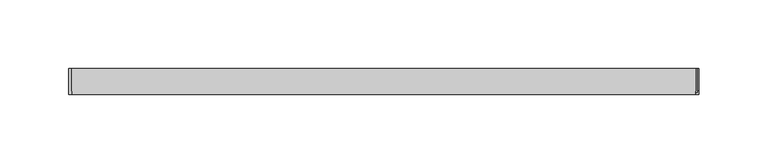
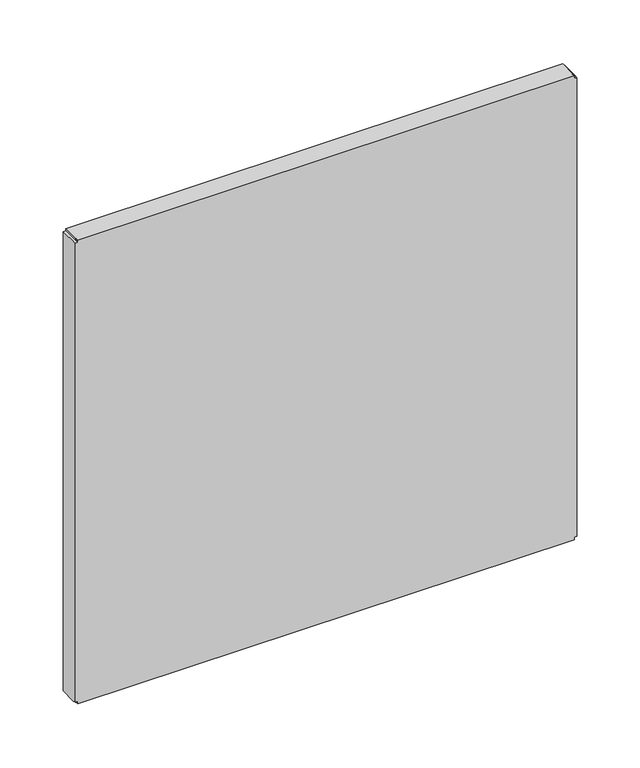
"""IFC4 building model written with IfcOpenShell, lengths in millimetres: proxy geometry, Platzhalter_Spuelkammer_Tuer_15.07.25."""

from ifc_helpers import new_model, si_unit, origin, place, context, project, spatial, faceted_brep, source, transform, mapped, element, save


def generic_models_fb11fd52(model_context):
    return source(origin(), model_context, "Body", "Brep", [
        faceted_brep([(226.75, 0.0, -221.8661165), (229.25, 0.0, -221.8661165), (229.25, 0.0, 221.5), (226.75, 0.0, 221.5), (226.75, 0.0, 224.0), (-226.75, 0.0, 224.0), (-226.75, 0.0, 221.8661165), (-229.25, 0.0, 221.8661165), (-229.25, 0.0, -221.5), (-226.75, 0.0, -221.5), (-226.75, 0.0, -224.0), (226.75, 0.0, -224.0), (226.75, 1.25, -221.8661165), (226.75, 2.5, -221.8661165), (227.1161165, 2.5, -221.8661165), (227.1161165, 18.75, -221.8661165), (229.25, 18.75, -221.8661165), (227.1161165, 2.5, -224.0), (227.1161165, 18.75, -224.0), (-226.75, 2.5, -224.0), (-227.1161165, 2.5, -224.0), (-227.1161165, 18.75, -224.0), (226.75, 2.5, -224.0), (226.75, 2.5, -222.75), (226.75, 1.25, -222.75), (-226.75, 1.25, -221.5), (-228.0, 1.25, -221.5), (-228.0, 2.5, -221.5), (-228.0, 18.75, -221.5), (-227.1161165, 18.75, -221.5), (-227.1161165, 2.5, -221.5), (-226.75, 2.5, -221.5), (-228.0, 18.75, -221.8661165), (-229.25, 18.75, -221.8661165), (-229.25, 18.75, 221.8661165), (-227.1161165, 18.75, 221.8661165), (-227.1161165, 18.75, 224.0), (227.1161165, 18.75, 224.0), (227.1161165, 18.75, 221.5), (228.0, 18.75, 221.5), (228.0, 18.75, 221.8661165), (229.25, 18.75, 221.8661165), (-226.75, 1.25, 221.8661165), (-226.75, 2.5, 221.8661165), (-227.1161165, 2.5, 221.8661165), (-226.75, 2.5, 224.0), (-226.75, 2.5, 222.75), (-226.75, 1.25, 222.75), (-229.25, 2.5, -221.8661165), (-229.25, 2.5, -221.5), (227.1161165, 2.5, 221.5), (226.75, 2.5, 221.5), (226.75, 1.25, 221.5), (228.0, 1.25, 221.5), (228.0, 2.5, 221.5), (227.1161165, 2.5, 224.0), (229.25, 2.5, 221.5), (226.75, 2.5, 222.75), (226.75, 1.25, 222.75), (226.75, 2.5, 224.0), (228.0, 2.5, 221.8661165), (-228.0, 2.5, -221.8661165), (-227.1161165, 2.5, 224.0), (229.25, 2.5, 221.8661165)], [[[0, 1, 2, 3, 4, 5, 6, 7, 8, 9, 10, 11]], [[1, 0, 12, 13, 14, 15, 16]], [[15, 14, 17, 18]], [[19, 20, 21, 18, 17, 22, 11, 10]], [[12, 0, 11, 22, 23, 24]], [[25, 26, 27, 28, 29, 30, 31]], [[18, 21, 29, 28, 32, 33, 34, 35, 36, 37, 38, 39, 40, 41, 16, 15]], [[7, 6, 42, 43, 44, 35, 34]], [[42, 6, 5, 45, 46, 47]], [[8, 7, 34, 33, 48, 49]], [[39, 38, 50, 51, 52, 53, 54]], [[50, 38, 37, 55]], [[53, 52, 3, 2, 56, 54]], [[30, 29, 21, 20]], [[9, 8, 49, 27, 26, 25]], [[31, 30, 20, 19]], [[13, 12, 24, 23]], [[51, 57, 58, 52]], [[51, 50, 55, 59, 57]], [[43, 42, 47, 46]], [[39, 54, 60, 40]], [[28, 27, 61, 32]], [[31, 19, 10, 9, 25]], [[58, 57, 59, 4, 3, 52]], [[44, 43, 46, 45, 62]], [[35, 44, 62, 36]], [[37, 36, 62, 45, 5, 4, 59, 55]], [[56, 63, 60, 54]], [[63, 41, 40, 60]], [[2, 1, 16, 41, 63, 56]], [[14, 13, 23, 22, 17]], [[49, 48, 61, 27]], [[48, 33, 32, 61]]]),
    ])


if __name__ == "__main__":
    model = new_model("IFC4")
    model_context = context("Model", 3, world=origin())
    ifc_project = project(units=[si_unit("LENGTHUNIT", "METRE", prefix="MILLI")], contexts=[model_context])
    site = spatial("IfcSite", under=ifc_project)
    building = spatial("IfcBuilding", under=site)
    placement = place(None, origin())
    generic_models_shape = generic_models_fb11fd52(model_context)
    element("IfcBuildingElementProxy", 1, Name="Platzhalter_Spuelkammer_Tuer_15.07.25", ObjectType="Platzhalter_Spuelkammer_Tuer_15.07.25", at=placement, inside=building, context=model_context, shape_type="MappedRepresentation", body=[
        mapped(generic_models_shape, transform((0.0, 0.0, 0.0), x_axis=(1.0, 0.0, 0.0), y_axis=(0.0, 1.0, 0.0), z_axis=(0.0, 0.0, 1.0))),
    ])
    save(model, "model.ifc")
